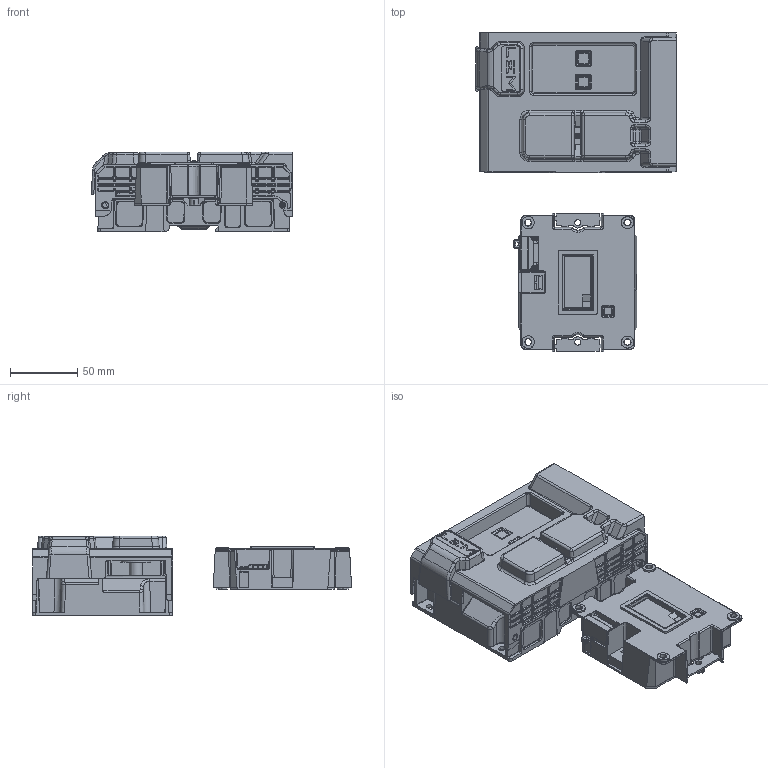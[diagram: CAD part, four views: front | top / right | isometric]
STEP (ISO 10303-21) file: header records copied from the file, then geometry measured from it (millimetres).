
FILE_DESCRIPTION (( 'STEP AP214' ), '1' );
FILE_NAME ('90.Z9.52.500.0_20260818.stp', '2026-08-18T08:30:23', ( '' ), ( '' ), 'SwSTEP 2.0', 'SolidWorks 2026', '' );
FILE_SCHEMA (( 'AUTOMOTIVE_DESIGN' ));
Length unit declared in the file: millimetre
Products named in the file (3): Blackbox DCES600_Blackbox DCES600; Blackbox DCES RDU_Blackbox DCES RDU; 90.Z9.52.500.0_20260818
Assembly tree (2 placements, depth 2):
  90.Z9.52.500.0_20260818
    Blackbox DCES600_Blackbox DCES600
    Blackbox DCES RDU_Blackbox DCES RDU
Bounding box: 149.71 x 237.69 x 59.5 mm (x, y, z)
Volume: 663895.9 mm3; surface area: 196515.3 mm2
Topology: 8 solids, 49 shells, 6813 faces, 17678 edges, 11055 vertices
Faces by surface type: plane 2882, cylinder 2308, bspline 1075, cone 230, sphere 215, torus 103
Entity records: 227882 total; most frequent: CARTESIAN_POINT 75442, ORIENTED_EDGE 35300, DIRECTION 28154, EDGE_CURVE 17650, VERTEX_POINT 11054, VECTOR 9962, LINE 9962, AXIS2_PLACEMENT_3D 9096
